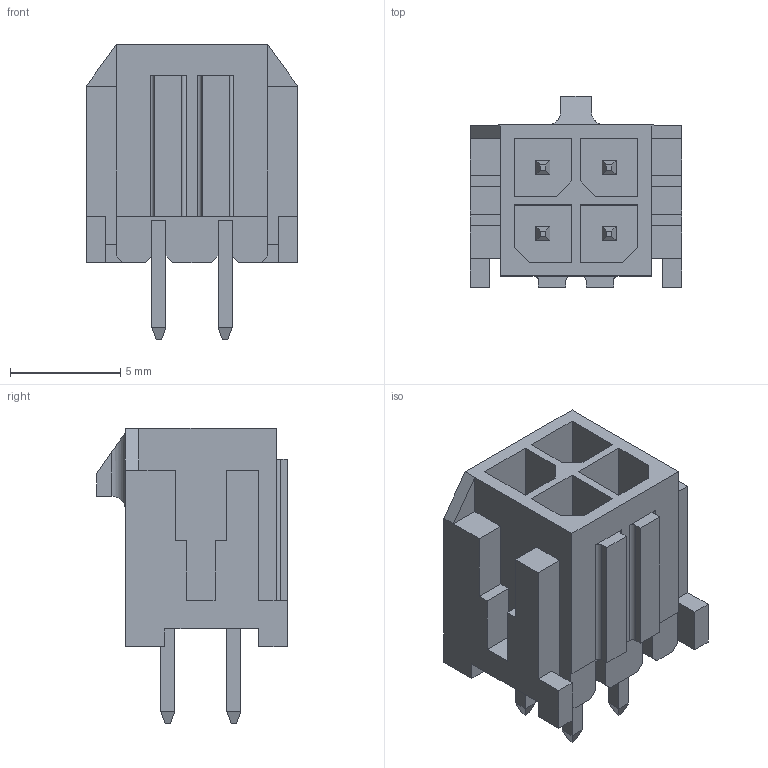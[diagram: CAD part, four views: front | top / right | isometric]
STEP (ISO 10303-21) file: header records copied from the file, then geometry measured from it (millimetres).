
FILE_DESCRIPTION(('Designed by EasyEDA Pro'),'2;1');
FILE_NAME('Open CASCADE Shape Model','2025-10-17T15:48:39',('Author'),( 'Open CASCADE'),'Open CASCADE STEP processor 7.6','Open CASCADE 7.8' ,'Unknown');
FILE_SCHEMA(('AUTOMOTIVE_DESIGN_CC2 { 1 2 10303 214 -1 1 5 4 }'));
Length unit declared in the file: millimetre
Products named in the file (4): PCBModel; sX3p-CN1; CONN-TH_DIP-3.0-2-2A; COMPOUND
Assembly tree (3 placements, depth 4):
  PCBModel
    sX3p-CN1
      CONN-TH_DIP-3.0-2-2A
        COMPOUND
Bounding box: 9.6 x 8.66 x 13.4 mm (x, y, z)
Volume: 380.7 mm3; surface area: 928.6 mm2
Topology: 5 solids, 5 shells, 194 faces, 507 edges, 324 vertices
Faces by surface type: plane 187, cylinder 7
Entity records: 7698 total; most frequent: CARTESIAN_POINT 1041, ORIENTED_EDGE 1014, DIRECTION 907, EDGE_CURVE 507, LINE 495, VECTOR 495, VERTEX_POINT 324, AXIS2_PLACEMENT_3D 206
